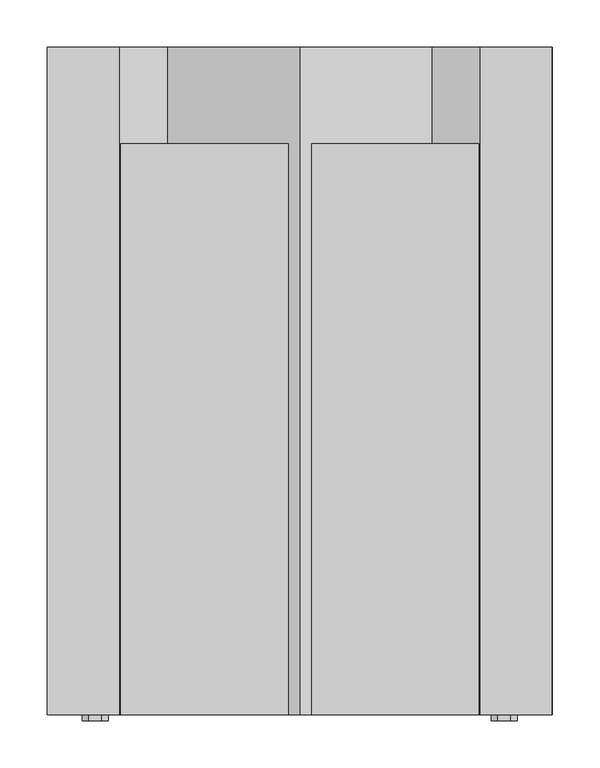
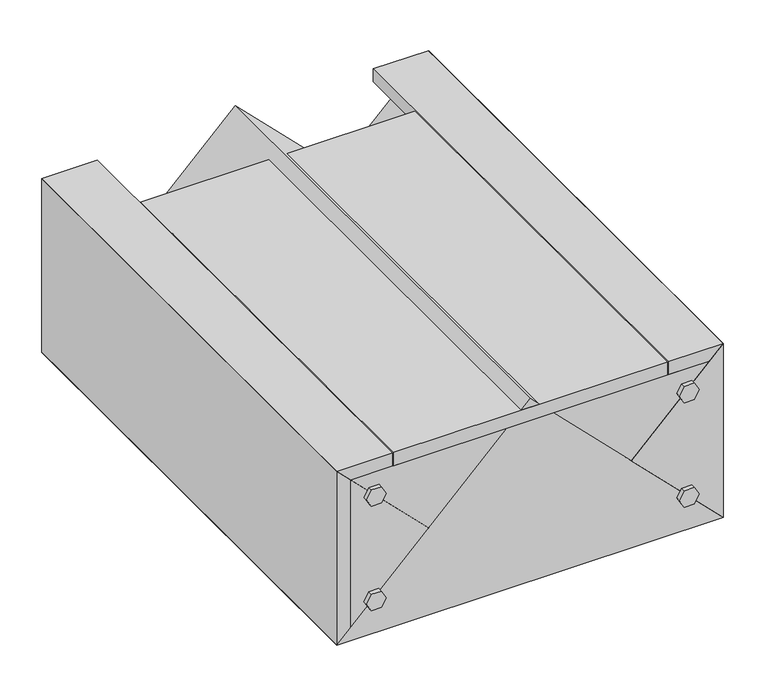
"""IFC4 building model written with IfcOpenShell, lengths in millimetres: proxy geometry, CCN^STANDARD_10X21 PAINTED CENTER BASE-ASSEMBLY."""

from ifc_helpers import new_model, si_unit, frame, origin, place, context, project, spatial, polyline, outline, extrude, source, transform, mapped, element, save


def generic_models_7f1c6e52(model_context):
    return source(origin(), model_context, "Body", "SweptSolid", [
        extrude(outline(polyline([(-215.10625, 475.7259234), (-215.10625, 489.4740766), (-203.2, 496.3481533), (-191.29375, 489.4740766), (-191.29375, 475.7259234), (-203.2, 468.8518467), (-215.10625, 475.7259234)])), frame((0.0, -6.35, 0.0), z_axis=(0.0, 1.0, 0.0), x_axis=(0.0, 0.0, 1.0)), (0.0, 0.0, 1.0), 6.35),
        extrude(outline(polyline([(455.6125, 0.0), (77.7875, 0.0), (77.7875, 603.25), (455.6125, 603.25), (455.6125, 0.0)])), frame((0.0, 0.0, -19.05), z_axis=(0.0, 0.0, 1.0), x_axis=(1.0, 0.0, 0.0)), (0.0, 0.0, 1.0), 19.05),
        extrude(outline(polyline([(-127.0, 406.4), (-254.0, 533.4), (0.0, 533.4), (-127.0, 406.4)])), frame((0.0, 0.0, 0.0), z_axis=(0.0, 1.0, 0.0), x_axis=(0.0, 0.0, 1.0)), (0.0, 0.0, 1.0), 704.85),
        extrude(outline(polyline([(-62.70625, 475.7259234), (-62.70625, 489.4740766), (-50.8, 496.3481533), (-38.89375, 489.4740766), (-38.89375, 475.7259234), (-50.8, 468.8518467), (-62.70625, 475.7259234)])), frame((0.0, -6.35, 0.0), z_axis=(0.0, 1.0, 0.0), x_axis=(0.0, 0.0, 1.0)), (0.0, 0.0, 1.0), 6.35),
        extrude(outline(polyline([(-254.0, 533.4), (12.7, 266.7), (-254.0, 0.0), (-254.0, 533.4)])), frame((0.0, 0.0, 0.0), z_axis=(0.0, 1.0, 0.0), x_axis=(0.0, 0.0, 1.0)), (0.0, 0.0, 1.0), 704.85),
        extrude(outline(polyline([(-215.10625, 43.9259234), (-215.10625, 57.6740766), (-203.2, 64.5481533), (-191.29375, 57.6740766), (-191.29375, 43.9259234), (-203.2, 37.0518467), (-215.10625, 43.9259234)])), frame((0.0, -6.35, 0.0), z_axis=(0.0, 1.0, 0.0), x_axis=(0.0, 0.0, 1.0)), (0.0, 0.0, 1.0), 6.35),
        extrude(outline(polyline([(0.0, 76.2), (0.0, 0.0), (-19.05, 19.05), (-19.05, 76.2), (0.0, 76.2)])), frame((0.0, 0.0, 0.0), z_axis=(0.0, 1.0, 0.0), x_axis=(0.0, 0.0, 1.0)), (0.0, 0.0, 1.0), 704.85),
        extrude(outline(polyline([(-19.05, 457.2), (-19.05, 514.35), (0.0, 533.4), (0.0, 457.2), (-19.05, 457.2)])), frame((0.0, 0.0, 0.0), z_axis=(0.0, 1.0, 0.0), x_axis=(0.0, 0.0, 1.0)), (0.0, 0.0, 1.0), 704.85),
        extrude(outline(polyline([(514.35, 0.0), (19.05, 0.0), (19.05, 25.4), (514.35, 25.4), (514.35, 0.0)])), frame((0.0, 0.0, -234.95), z_axis=(0.0, 0.0, 1.0), x_axis=(1.0, 0.0, 0.0)), (0.0, 0.0, 1.0), 215.9),
        extrude(outline(polyline([(-62.70625, 43.9259234), (-62.70625, 57.6740766), (-50.8, 64.5481533), (-38.89375, 57.6740766), (-38.89375, 43.9259234), (-50.8, 37.0518467), (-62.70625, 43.9259234)])), frame((0.0, -6.35, 0.0), z_axis=(0.0, 1.0, 0.0), x_axis=(0.0, 0.0, 1.0)), (0.0, 0.0, 1.0), 6.35),
        extrude(outline(polyline([(-127.0, 127.0), (0.0, 0.0), (-254.0, 0.0), (-127.0, 127.0)])), frame((0.0, 0.0, 0.0), z_axis=(0.0, 1.0, 0.0), x_axis=(0.0, 0.0, 1.0)), (0.0, 0.0, 1.0), 704.85),
    ])


if __name__ == "__main__":
    model = new_model("IFC4")
    model_context = context("Model", 3, world=origin())
    ifc_project = project(units=[si_unit("LENGTHUNIT", "METRE", prefix="MILLI")], contexts=[model_context])
    site = spatial("IfcSite", under=ifc_project)
    building = spatial("IfcBuilding", under=site)
    placement = place(None, origin())
    generic_models_shape = generic_models_7f1c6e52(model_context)
    element("IfcBuildingElementProxy", 1, Name="CCN^STANDARD_10X21 PAINTED CENTER BASE-ASSEMBLY", ObjectType="CCN^STANDARD_10X21 PAINTED CENTER BASE-ASSEMBLY", at=placement, inside=building, context=model_context, shape_type="MappedRepresentation", body=[
        mapped(generic_models_shape, transform((0.0, 0.0, 0.0), x_axis=(1.0, 0.0, 0.0), y_axis=(0.0, 1.0, 0.0), z_axis=(0.0, 0.0, 1.0))),
    ])
    save(model, "model.ifc")
